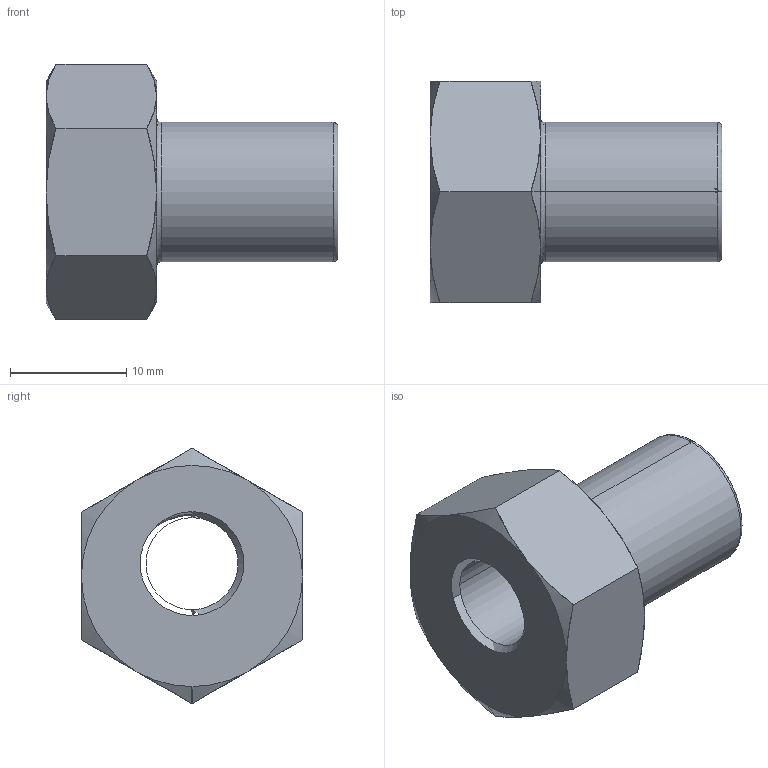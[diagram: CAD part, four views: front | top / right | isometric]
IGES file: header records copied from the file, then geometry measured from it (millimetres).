
Start section: 3D InterOp IGES (v. 2019 1.0.2), Spatial Corp. Copyright (c) 1999-2017.
Global section: file name: BX3SS.igs; native system: Spatial Corp.; preprocessor: 3D InterOp GENERIC/IGES 3.0; author: Noname; organization: Noname; date: 20200930.105802; units: millimetre
Bounding box: 25.14 x 19.05 x 22 mm (x, y, z)
Surface area: 2436.9 mm2 (no closed solid volume)
Topology: 0 solids, 0 shells, 35 faces, 232 edges, 230 vertices
Faces by surface type: revolution 26, extrusion 9
